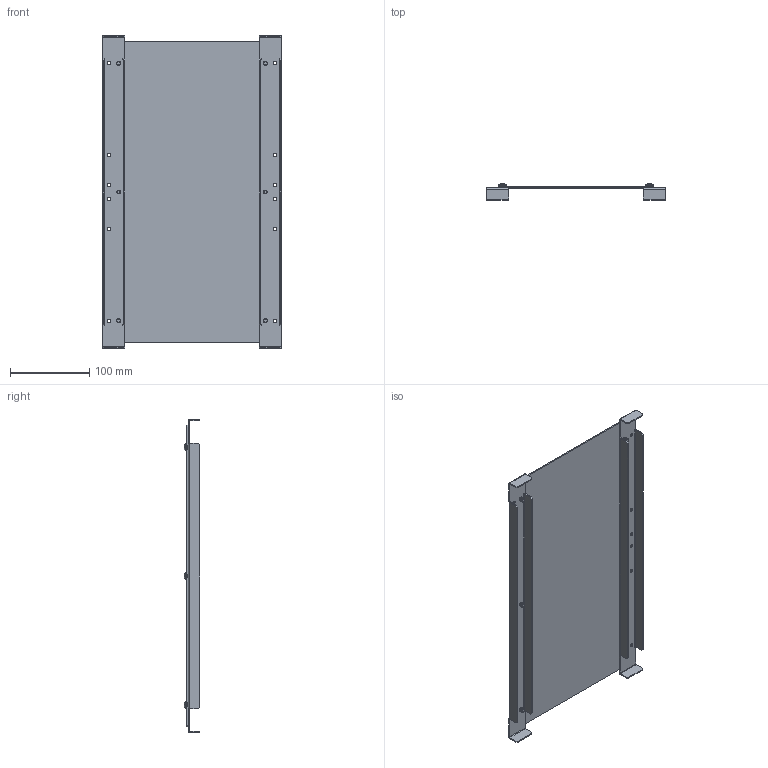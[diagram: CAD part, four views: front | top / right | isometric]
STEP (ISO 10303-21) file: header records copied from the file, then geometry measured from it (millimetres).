
FILE_DESCRIPTION (( 'STEP AP203' ), '1' );
FILE_NAME ('R5FCGD5.STEP', '2019-03-22T06:23:40', ( '' ), ( '' ), 'SwSTEP 2.0', 'SolidWorks 2017', '' );
FILE_SCHEMA (( 'CONFIG_CONTROL_DESIGN' ));
Length unit declared in the file: millimetre
Products named in the file (4): RB.1199.00.00.0_-01 (500); RB.1198.00.00.0_-01 (500); M5x8-DIN7500C_thread; R5FCGD5
Assembly tree (9 placements, depth 2):
  R5FCGD5
    RB.1199.00.00.0_-01 (500)
    RB.1198.00.00.0_-01 (500)  x2
    M5x8-DIN7500C_thread  x6
Bounding box: 226 x 20.06 x 396 mm (x, y, z)
Volume: 174894.1 mm3; surface area: 238138.5 mm2
Topology: 9 solids, 9 shells, 626 faces, 1568 edges, 954 vertices
Faces by surface type: cone 216, plane 184, cylinder 178, torus 24, bspline 12, sphere 12
Entity records: 6414 total; most frequent: CARTESIAN_POINT 1179, DIRECTION 1028, ORIENTED_EDGE 948, EDGE_CURVE 474, AXIS2_PLACEMENT_3D 368, VERTEX_POINT 295, VECTOR 292, LINE 292
